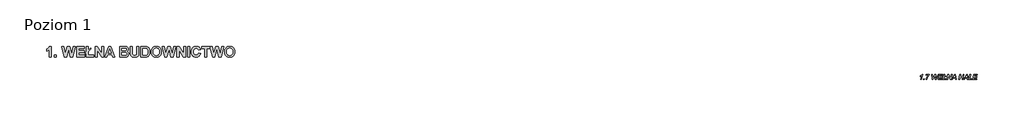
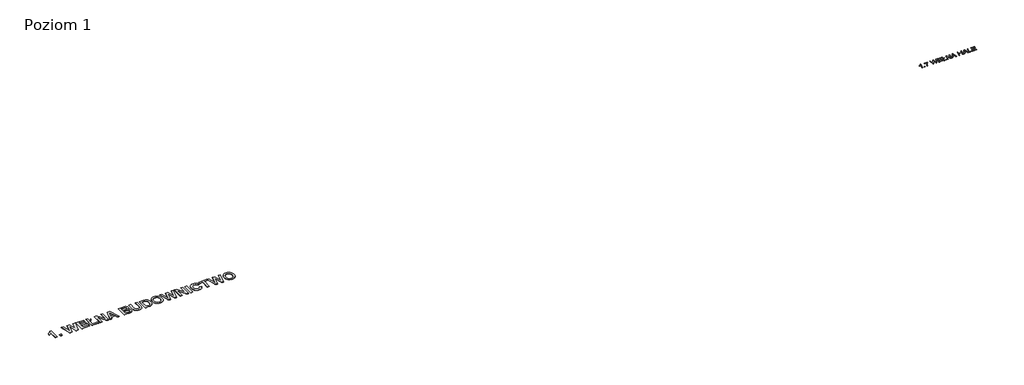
# One storey, incomplete: 2 proxies.
"""IFC4 building model written with IfcOpenShell, lengths in millimetres."""

import ifcopenshell
import ifcopenshell.guid

model = None  # the IFC model being written
_history = None  # IfcOwnerHistory: only IFC2X3 demands one
_inside = {}  # id of a spatial element -> (the spatial element, [elements in it])
_under = {}  # id of a project, library or spatial element -> (it, [spatial elements below it])
_declared = {}  # id of a project -> (the project, [libraries it declares])
_typed = {}  # id of a type object -> (the type object, [elements of that type])
_made_of = {}  # id of a material, layer set ... -> (it, [elements and type objects made of it])


def new_model(schema):
    """Start an empty IFC model of exactly this schema.

    Asked for "IFC4X3", IfcOpenShell would pick the latest addendum, in which some entities
    have other attributes; the version numbers below select the first issue.
    IFC2X3 requires an IfcOwnerHistory on every rooted entity: one is made here for all.
    """
    global model, _history
    if schema == "IFC4X3":
        model = ifcopenshell.file(schema_version=(4, 3, 0, 0))
    else:
        model = ifcopenshell.file(schema=schema)
    _inside.clear()
    _under.clear()
    _declared.clear()
    _typed.clear()
    _made_of.clear()
    _history = None
    if model.schema == "IFC2X3":
        org = make("IfcOrganization", Name="unknown")
        user = make(
            "IfcPersonAndOrganization",
            ThePerson=make("IfcPerson", FamilyName="unknown"),
            TheOrganization=org,
        )
        app = make(
            "IfcApplication",
            ApplicationDeveloper=org,
            Version="unknown",
            ApplicationFullName="unknown",
            ApplicationIdentifier="unknown",
        )
        _history = make(
            "IfcOwnerHistory",
            OwningUser=user,
            OwningApplication=app,
            ChangeAction="ADDED",
            CreationDate=0,
        )
    return model


def make(cls, **values):
    """One entity of the class cls with the attributes given. An attribute that is None is left unset."""
    return model.create_entity(
        cls, **{name: value for name, value in values.items() if value is not None}
    )


def rooted(cls, **values):
    """An entity with a GlobalId (a new one), such as an element, a storey or a relation."""
    return make(cls, GlobalId=ifcopenshell.guid.new(), OwnerHistory=_history, **values)


def si_unit(unit_type, name, prefix=None):
    """IfcSIUnit, for example si_unit("LENGTHUNIT", "METRE", prefix="MILLI")."""
    return make("IfcSIUnit", UnitType=unit_type, Prefix=prefix, Name=name)


def assignment(units):
    """IfcUnitAssignment: the units of a project."""
    return None if units is None else make("IfcUnitAssignment", Units=units)


def point(xyz):
    """IfcCartesianPoint."""
    return None if xyz is None else make("IfcCartesianPoint", Coordinates=xyz)


def direction(xyz):
    """IfcDirection."""
    return None if xyz is None else make("IfcDirection", DirectionRatios=xyz)


def frame(location, z_axis=None, x_axis=None):
    """IfcAxis2Placement3D, a coordinate frame: its origin and axes. An axis left out is left unset."""
    return make(
        "IfcAxis2Placement3D",
        Location=point(location),
        Axis=direction(z_axis),
        RefDirection=direction(x_axis),
    )


def origin():
    """The frame at (0, 0, 0) with its axes left unset."""
    return frame((0.0, 0.0, 0.0))


def origin_with_axes():
    """The frame at (0, 0, 0) with the z axis (0, 0, 1) and the x axis (1, 0, 0) written out."""
    return frame((0.0, 0.0, 0.0), z_axis=(0.0, 0.0, 1.0), x_axis=(1.0, 0.0, 0.0))


def place(relative_to, where):
    """IfcLocalPlacement: puts the frame where relative to a parent placement (None: the world)."""
    return make(
        "IfcLocalPlacement", PlacementRelTo=relative_to, RelativePlacement=where
    )


def context(
    kind, dimensions, precision=None, world=None, true_north=None, identifier=None
):
    """IfcGeometricRepresentationContext, for example the 3D "Model" context."""
    return make(
        "IfcGeometricRepresentationContext",
        ContextIdentifier=identifier,
        ContextType=kind,
        CoordinateSpaceDimension=dimensions,
        Precision=precision,
        WorldCoordinateSystem=world,
        TrueNorth=true_north,
    )


def project(units=None, contexts=None):
    """IfcProject with its units and contexts."""
    return rooted(
        "IfcProject",
        Name="project",
        RepresentationContexts=contexts,
        UnitsInContext=assignment(units),
    )


def spatial(cls, under=None, at=None, **own):
    """A site, building, storey or space (cls), placed at a placement, below another one or the project."""
    s = rooted(cls, ObjectPlacement=at, **own)
    if under is not None:
        _under.setdefault(under.id(), (under, []))[1].append(s)
    return s


def polyline(points):
    """IfcPolyline through the points."""
    return make("IfcPolyline", Points=[point(p) for p in points])


def outline(outer, holes=None, kind="AREA"):
    """IfcArbitraryClosedProfileDef: a profile drawn as a closed curve; with holes, ...WithVoids."""
    if holes is None:
        return make("IfcArbitraryClosedProfileDef", ProfileType=kind, OuterCurve=outer)
    return make(
        "IfcArbitraryProfileDefWithVoids",
        ProfileType=kind,
        OuterCurve=outer,
        InnerCurves=holes,
    )


def extrude(swept, where, along, depth):
    """IfcExtrudedAreaSolid: the profile swept, set in the frame where, extruded along a direction by depth."""
    return make(
        "IfcExtrudedAreaSolid",
        SweptArea=swept,
        Position=where,
        ExtrudedDirection=direction(along),
        Depth=depth,
    )


def shape(context_of_items, identifier, shape_type, items):
    """IfcShapeRepresentation: the items that make up one representation, for example the "Body"."""
    return make(
        "IfcShapeRepresentation",
        ContextOfItems=context_of_items,
        RepresentationIdentifier=identifier,
        RepresentationType=shape_type,
        Items=items,
    )


def made_of(thing, what):
    """Note that an element or type object is made of a material, layer set ...; save() writes the relation."""
    if what is not None:
        _made_of.setdefault(what.id(), (what, []))[1].append(thing)
    return thing


def element(
    cls,
    number,
    at=None,
    inside=None,
    cuts=None,
    type_object=None,
    material=None,
    context=None,
    identifier="Body",
    shape_type=None,
    held_by="IfcProductDefinitionShape",
    body=None,
    shapes=None,
    **own,
):
    """One element of the class cls, such as IfcWall. Its Tag is "e" and its number.

    at: its placement. inside: the storey or other place that contains it. cuts: it is an
    opening in that element (IfcRelVoidsElement). A single representation is given by context,
    identifier, shape_type and body (its items); several are given by shapes. held_by: the class
    of the entity that holds the representations. save() writes the other relations.
    """
    e = rooted(cls, Tag="e%d" % number, ObjectPlacement=at, **own)
    if body is not None:
        shapes = [shape(context, identifier, shape_type, body)]
    if shapes is not None:
        e.Representation = make(held_by, Representations=shapes)
    if inside is not None:
        _inside.setdefault(inside.id(), (inside, []))[1].append(e)
    if cuts is not None:
        rooted(
            "IfcRelVoidsElement", RelatingBuildingElement=cuts, RelatedOpeningElement=e
        )
    if type_object is not None:
        _typed.setdefault(type_object.id(), (type_object, []))[1].append(e)
    return made_of(e, material)


def aggregate(whole, parts):
    """IfcRelAggregates: a whole, such as a stair, and the parts it consists of."""
    return rooted("IfcRelAggregates", RelatingObject=whole, RelatedObjects=parts)


def save(model, path):
    """Write the relations noted so far, then the file.

    IfcRelAggregates (storeys below a building ...), IfcRelContainedInSpatialStructure (elements
    in a storey), IfcRelDefinesByType, IfcRelAssociatesMaterial and IfcRelDeclares: one each for
    every whole, place, type object, material and project.
    """
    for whole, parts in _under.values():
        aggregate(whole, parts)
    for where, things in _inside.values():
        rooted(
            "IfcRelContainedInSpatialStructure",
            RelatedElements=things,
            RelatingStructure=where,
        )
    for kind, things in _typed.values():
        rooted("IfcRelDefinesByType", RelatedObjects=things, RelatingType=kind)
    for what, things in _made_of.values():
        rooted("IfcRelAssociatesMaterial", RelatedObjects=things, RelatingMaterial=what)
    for by, libraries in _declared.values():
        rooted("IfcRelDeclares", RelatingContext=by, RelatedDefinitions=libraries)
    model.write(path)


model = new_model("IFC4")

# Units and contexts
model_context = context("Model", 3, world=origin())
ifc_project = project(units=[si_unit("LENGTHUNIT", "METRE", prefix="MILLI")], contexts=[model_context])

# Site, building, storey
site = spatial("IfcSite", under=ifc_project)
building = spatial("IfcBuilding", under=site)
storey = spatial("IfcBuildingStorey", under=building, Name="Poziom 1", Elevation=0.0)

# Proxies
placement = place(None, origin())
element("IfcBuildingElementProxy", 1, Name="400 mm Arial", ObjectType="400 mm Arial", at=placement, inside=storey, context=model_context, shape_type="SweptSolid", body=[
    extrude(outline(polyline([(50188.1068831, 15251.1796723), (50249.3190043, 15546.3368692), (50227.350787, 15531.4283702), (50201.3296577, 15518.0740851), (50137.1286634, 15496.0281571), (50146.1191937, 15538.8766419), (50181.8302496, 15555.5067319), (50217.0391748, 15576.5125321), (50269.9780952, 15617.0177404), (50290.7328301, 15642.937248), (50319.330368, 15642.937248), (50237.9373755, 15251.1796723), (50188.1068831, 15251.1796723)])), origin_with_axes(), (0.0, 0.0, 1.0), 5.0),
    extrude(outline(polyline([(50384.7508225, 15251.1796723), (50396.2280952, 15300.1493692), (50445.1977922, 15300.1493692), (50434.6769589, 15251.1796723), (50384.7508225, 15251.1796723)])), origin_with_axes(), (0.0, 0.0, 1.0), 5.0),
    extrude(outline(polyline([(50585.985671, 15251.1796723), (50596.0282846, 15294.0520681), (50613.3398377, 15344.8150889), (50642.1884409, 15410.5942082), (50678.8081142, 15475.9429298), (50721.5968216, 15536.4855435), (50768.952527, 15587.8463389), (50572.8824513, 15587.8463389), (50582.2555573, 15636.8160359), (50833.703474, 15636.8160359), (50824.7129437, 15587.8463389), (50793.4074868, 15558.3640946), (50764.1464191, 15524.9126268), (50736.9297406, 15487.4919355), (50711.7574513, 15446.1020207), (50685.9036989, 15396.3313058), (50664.4854342, 15347.2540094), (50647.5026573, 15298.8701315), (50634.955368, 15251.1796723), (50585.985671, 15251.1796723)])), origin_with_axes(), (0.0, 0.0, 1.0), 5.0),
    extrude(outline(polyline([(51045.0765801, 15251.1796723), (51020.5917316, 15642.937248), (51069.5614286, 15642.937248), (51080.7517695, 15447.8236116), (51085.0557467, 15372.9344071), (51086.3947619, 15348.9277783), (51090.985671, 15318.5130056), (51136.4165422, 15418.0783465), (51251.1892695, 15642.937248), (51308.2887013, 15642.937248), (51325.6002543, 15413.2961495), (51335.8341558, 15318.5130056), (51351.328474, 15356.1010738), (51381.9345346, 15417.1219071), (51495.5595346, 15642.937248), (51550.0765801, 15642.937248), (51346.1637013, 15251.1796723), (51289.9250649, 15251.1796723), (51271.3701407, 15487.5158465), (51262.3796104, 15563.3614904), (51236.4601028, 15506.3577026), (51106.0017695, 15251.1796723), (51045.0765801, 15251.1796723)])), origin_with_axes(), (0.0, 0.0, 1.0), 5.0),
    extrude(outline(polyline([(51504.1674892, 15251.1796723), (51583.7432467, 15642.937248), (51859.1977922, 15642.937248), (51852.9809361, 15600.0887632), (51624.7744967, 15600.0887632), (51599.9070725, 15477.6645207), (51822.4705195, 15477.6645207), (51810.2280952, 15434.8160359), (51591.203474, 15434.8160359), (51562.6059361, 15294.0281571), (51808.1239286, 15294.0281571), (51798.9421104, 15251.1796723), (51504.1674892, 15251.1796723)])), origin_with_axes(), (0.0, 0.0, 1.0), 5.0),
    extrude(outline(polyline([(51898.3161634, 15413.7743692), (51846.955368, 15385.8463389), (51859.1977922, 15428.6948238), (51906.6371861, 15454.5186874), (51944.8947619, 15642.937248), (51994.6296104, 15642.937248), (51962.4932467, 15484.7421723), (52073.4402164, 15544.9978541), (52061.1977922, 15502.1493692), (51954.267868, 15444.093498), (51923.7574513, 15294.0281571), (52128.5311255, 15294.0281571), (52116.2887013, 15251.1796723), (51865.3190043, 15251.1796723), (51898.3161634, 15413.7743692)])), origin_with_axes(), (0.0, 0.0, 1.0), 5.0),
    extrude(outline(polyline([(52165.2583983, 15251.1796723), (52244.8341558, 15642.937248), (52312.1674892, 15642.937248), (52371.4667316, 15491.3416041), (52414.5065043, 15374.5603541), (52435.6438149, 15300.1493692), (52457.2593452, 15411.2876268), (52502.3076407, 15642.937248), (52551.9468452, 15642.937248), (52475.8142695, 15251.1796723), (52403.5074513, 15251.1796723), (52322.4970346, 15476.2298616), (52282.9960877, 15585.7421723), (52263.3890801, 15489.0461495), (52214.9932467, 15251.1796723), (52165.2583983, 15251.1796723)])), origin_with_axes(), (0.0, 0.0, 1.0), 5.0),
    extrude(outline(polyline([(52524.2101028, 15251.1796723), (52743.4260119, 15642.937248), (52805.4032846, 15642.937248), (52867.0936255, 15251.1796723), (52817.6457089, 15251.1796723), (52801.9601028, 15361.3614904), (52638.8871861, 15361.3614904), (52579.109724, 15251.1796723), (52524.2101028, 15251.1796723)]), holes=[polyline([(52664.2328301, 15404.2099753), (52795.9345346, 15404.2099753), (52782.1618073, 15502.1493692), (52768.1977922, 15600.0887632), (52725.0623755, 15520.5130056), (52664.2328301, 15404.2099753)])]), origin_with_axes(), (0.0, 0.0, 1.0), 5.0),
    extrude(outline(polyline([(53071.1977922, 15251.1796723), (53150.7735498, 15642.937248), (53200.5083983, 15642.937248), (53166.9373755, 15477.6645207), (53368.3635119, 15477.6645207), (53402.1258225, 15642.937248), (53451.860671, 15642.937248), (53371.9023377, 15251.1796723), (53322.1674892, 15251.1796723), (53359.6599134, 15434.8160359), (53158.233777, 15434.8160359), (53120.9326407, 15251.1796723), (53071.1977922, 15251.1796723)])), origin_with_axes(), (0.0, 0.0, 1.0), 5.0),
    extrude(outline(polyline([(53430.1494967, 15251.1796723), (53649.3654058, 15642.937248), (53711.3426786, 15642.937248), (53773.0330195, 15251.1796723), (53723.5851028, 15251.1796723), (53707.8994967, 15361.3614904), (53544.8265801, 15361.3614904), (53485.049118, 15251.1796723), (53430.1494967, 15251.1796723)]), holes=[polyline([(53570.172224, 15404.2099753), (53701.8739286, 15404.2099753), (53688.1012013, 15502.1493692), (53674.1371861, 15600.0887632), (53631.0017695, 15520.5130056), (53570.172224, 15404.2099753)])]), origin_with_axes(), (0.0, 0.0, 1.0), 5.0),
    extrude(outline(polyline([(53824.1068831, 15251.1796723), (53903.6826407, 15642.937248), (53953.4174892, 15642.937248), (53882.5453301, 15294.0281571), (54093.4402164, 15294.0281571), (54081.1977922, 15251.1796723), (53824.1068831, 15251.1796723)])), origin_with_axes(), (0.0, 0.0, 1.0), 5.0),
    extrude(outline(polyline([(54124.046277, 15251.1796723), (54203.6220346, 15642.937248), (54479.0765801, 15642.937248), (54472.859724, 15600.0887632), (54244.6532846, 15600.0887632), (54219.7858604, 15477.6645207), (54442.3493073, 15477.6645207), (54430.1068831, 15434.8160359), (54211.0822619, 15434.8160359), (54182.484724, 15294.0281571), (54428.0027164, 15294.0281571), (54418.8208983, 15251.1796723), (54124.046277, 15251.1796723)])), origin_with_axes(), (0.0, 0.0, 1.0), 5.0),
])
element("IfcBuildingElementProxy", 2, Name="800", ObjectType="800", at=placement, inside=storey, context=model_context, shape_type="SweptSolid", body=[
    extrude(outline(polyline([(-15688.5553841, 16963.7896585), (-15841.5553841, 16963.7896585), (-15841.5553841, 17537.938096), (-15883.9142708, 17497.5215921), (-15929.9088997, 17462.7330179), (-15979.5392708, 17433.5723734), (-16032.8053841, 17410.0396585), (-16032.8053841, 17563.0396585), (-16002.7856087, 17575.1235208), (-15971.4958138, 17591.6524515), (-15905.1061654, 17638.0455179), (-15873.3432259, 17666.8388529), (-15846.984095, 17697.9356546), (-15826.0287728, 17731.3359232), (-15810.4772591, 17767.0396585), (-15688.5553841, 17767.0396585), (-15688.5553841, 16963.7896585)])), origin_with_axes(), (0.0, 0.0, 1.0), 5.0),
    extrude(outline(polyline([(-15433.5553841, 16963.7896585), (-15433.5553841, 17116.7896585), (-15280.5553841, 17116.7896585), (-15280.5553841, 16963.7896585), (-15433.5553841, 16963.7896585)])), origin_with_axes(), (0.0, 0.0, 1.0), 5.0),
    extrude(outline(polyline([(-14695.8483529, 16963.7896585), (-14898.0553841, 17767.0396585), (-14741.0710091, 17767.0396585), (-14611.1803841, 17215.203721), (-14471.5280404, 17767.0396585), (-14265.7350716, 17767.0396585), (-14126.6803841, 17206.0396585), (-13996.7897591, 17767.0396585), (-13839.8053841, 17767.0396585), (-14039.0241341, 16963.7896585), (-14220.1139779, 16963.7896585), (-14368.9303841, 17564.234971), (-14520.7350716, 16963.7896585), (-14695.8483529, 16963.7896585)])), origin_with_axes(), (0.0, 0.0, 1.0), 5.0),
    extrude(outline(polyline([(-13763.3053841, 16963.7896585), (-13763.3053841, 17767.0396585), (-13164.0553841, 17767.0396585), (-13164.0553841, 17626.7896585), (-13610.3053841, 17626.7896585), (-13610.3053841, 17448.2896585), (-13189.5553841, 17448.2896585), (-13189.5553841, 17308.0396585), (-13610.3053841, 17308.0396585), (-13610.3053841, 17104.0396585), (-13151.3053841, 17104.0396585), (-13151.3053841, 16963.7896585), (-13763.3053841, 16963.7896585)])), origin_with_axes(), (0.0, 0.0, 1.0), 5.0),
    extrude(outline(polyline([(-13023.8053841, 17367.406846), (-13023.8053841, 17767.0396585), (-12870.8053841, 17767.0396585), (-12870.8053841, 17501.8795023), (-12692.3053841, 17658.6646585), (-12692.3053841, 17561.047471), (-12870.8053841, 17404.2623148), (-12870.8053841, 17104.0396585), (-12462.8053841, 17104.0396585), (-12462.8053841, 16963.7896585), (-13023.8053841, 16963.7896585), (-13023.8053841, 17269.7896585), (-13113.0553841, 17191.297471), (-13113.0553841, 17288.9146585), (-13023.8053841, 17367.406846)])), origin_with_axes(), (0.0, 0.0, 1.0), 5.0),
    extrude(outline(polyline([(-12348.0553841, 16963.7896585), (-12348.0553841, 17767.0396585), (-12187.6842904, 17767.0396585), (-11850.8053841, 17226.359971), (-11850.8053841, 17767.0396585), (-11697.8053841, 17767.0396585), (-11697.8053841, 16963.7896585), (-11863.1569466, 16963.7896585), (-12195.0553841, 17496.500596), (-12195.0553841, 16963.7896585), (-12348.0553841, 16963.7896585)])), origin_with_axes(), (0.0, 0.0, 1.0), 5.0),
    extrude(outline(polyline([(-10869.0553841, 16963.7896585), (-11029.8249154, 16963.7896585), (-11092.7780404, 17142.2896585), (-11396.1881966, 17142.2896585), (-11458.3444466, 16963.7896585), (-11621.3053841, 16963.7896585), (-11328.0553841, 17767.0396585), (-11165.0944466, 17767.0396585), (-10869.0553841, 16963.7896585)]), holes=[polyline([(-11141.7858529, 17282.5396585), (-11245.1803841, 17575.7896585), (-11347.1803841, 17282.5396585), (-11141.7858529, 17282.5396585)])]), origin_with_axes(), (0.0, 0.0, 1.0), 5.0),
    extrude(outline(polyline([(-10486.5553841, 17767.0396585), (-10156.8483529, 17767.0396585), (-10071.4582161, 17765.047471), (-10010.9206185, 17759.0709085), (-9965.3493294, 17746.7442484), (-9924.8581185, 17725.7017679), (-9890.0695443, 17696.1177835), (-9861.6061654, 17658.1666117), (-9850.5370736, 17636.4579935), (-9842.6305794, 17613.4669046), (-9837.8866829, 17589.1933451), (-9836.3053841, 17563.6373148), (-9838.1917366, 17535.9210062), (-9843.8507943, 17509.3502054), (-9853.282557, 17483.9249124), (-9866.4870247, 17459.6451273), (-9882.9287972, 17437.4197855), (-9902.072474, 17418.1578226), (-9923.918055, 17401.8592386), (-9948.4655404, 17388.5240335), (-9917.213099, 17375.9981546), (-9889.7956185, 17359.7369242), (-9866.213099, 17339.7403421), (-9846.4655404, 17316.0084085), (-9830.864222, 17289.2757425), (-9819.7204232, 17260.2769632), (-9813.0341439, 17229.0120707), (-9810.8053841, 17195.4810648), (-9812.4053597, 17168.3810892), (-9817.2052865, 17141.6670999), (-9836.4049935, 17089.3970804), (-9850.3752083, 17064.9429789), (-9866.6862435, 17043.078721), (-9885.338099, 17023.804307), (-9906.3307747, 17007.1197367), (-9929.782557, 16993.2055521), (-9955.8117318, 16982.2422953), (-9984.4182991, 16974.2299662), (-10015.6022591, 16969.1685648), (-10085.0299935, 16965.632432), (-10212.0319466, 16963.7896585), (-10486.5553841, 16963.7896585), (-10486.5553841, 17767.0396585)]), holes=[polyline([(-10333.5553841, 17626.7896585), (-10333.5553841, 17448.2896585), (-10216.8131966, 17448.2896585), (-10087.3210091, 17450.8795023), (-10046.5558724, 17460.1929789), (-10029.8152718, 17468.2488871), (-10015.5026497, 17478.5709085), (-10004.041346, 17490.9349222), (-9995.8547005, 17505.116807), (-9990.9427132, 17521.1165628), (-9989.3053841, 17538.9341898), (-9994.9582161, 17571.2823343), (-10002.0242562, 17584.9723978), (-10011.9167122, 17597.0064554), (-10024.5857796, 17607.1105814), (-10039.9816536, 17615.0108499), (-10078.9538216, 17624.1998148), (-10231.1569466, 17626.7896585), (-10333.5553841, 17626.7896585)]), polyline([(-10333.5553841, 17308.0396585), (-10333.5553841, 17104.0396585), (-10171.7897591, 17104.0396585), (-10094.4928841, 17105.234971), (-10051.8600716, 17108.8209085), (-10016.4489388, 17119.504014), (-9988.3092904, 17139.2017679), (-9977.5888314, 17152.3315287), (-9969.9313607, 17167.5157328), (-9965.3368782, 17184.7543802), (-9963.8053841, 17204.047471), (-9968.5368294, 17235.7232523), (-9982.7311654, 17262.219346), (-10005.8405404, 17282.8882914), (-10037.3171029, 17297.0826273), (-10093.8952279, 17305.3004007), (-10192.3092904, 17308.0396585), (-10333.5553841, 17308.0396585)])]), origin_with_axes(), (0.0, 0.0, 1.0), 5.0),
    extrude(outline(polyline([(-9683.3053841, 17767.0396585), (-9530.3053841, 17767.0396585), (-9530.3053841, 17333.7388773), (-9528.6618294, 17248.672471), (-9523.7311654, 17199.8638773), (-9516.098597, 17176.5615091), (-9504.5563607, 17155.6622171), (-9489.1044564, 17137.1660013), (-9469.7428841, 17121.0728617), (-9446.4716439, 17108.0427103), (-9419.2907357, 17098.7354593), (-9388.2001595, 17093.1511087), (-9353.1999154, 17091.2896585), (-9317.8697152, 17093.0452738), (-9287.1838021, 17098.3121195), (-9261.1421761, 17107.0901957), (-9239.7448372, 17119.3795023), (-9222.5684456, 17134.2275248), (-9209.1896615, 17150.6817484), (-9199.6084847, 17168.7421732), (-9193.8249154, 17188.4087992), (-9187.9977669, 17242.8702249), (-9186.0553841, 17324.375596), (-9186.0553841, 17767.0396585), (-9033.0553841, 17767.0396585), (-9033.0553841, 17345.6920023), (-9036.3922982, 17222.3257914), (-9046.4030404, 17141.4927835), (-9054.4838509, 17112.8613138), (-9065.3786263, 17086.5333109), (-9079.0873665, 17062.5087748), (-9095.6100716, 17040.7877054), (-9115.0525765, 17021.2704935), (-9137.5207161, 17003.8575296), (-9163.0144906, 16988.5488138), (-9191.5338997, 16975.344346), (-9223.8633675, 16964.7110453), (-9260.7873177, 16957.1158304), (-9302.3057503, 16952.5587015), (-9348.4186654, 16951.0396585), (-9403.2660775, 16952.6956644), (-9451.0661263, 16957.663682), (-9491.8188118, 16965.9437113), (-9525.5241341, 16977.5357523), (-9554.1244759, 16991.7798929), (-9579.56222, 17008.016221), (-9601.8373665, 17026.2447367), (-9620.9499154, 17046.4654398), (-9650.0358529, 17089.944932), (-9667.1686654, 17135.516221), (-9679.2712044, 17220.8814554), (-9683.3053841, 17339.1177835), (-9683.3053841, 17767.0396585)])), origin_with_axes(), (0.0, 0.0, 1.0), 5.0),
    extrude(outline(polyline([(-8880.0553841, 17767.0396585), (-8582.6217904, 17767.0396585), (-8493.9694466, 17763.2046976), (-8429.2233529, 17751.6998148), (-8395.0324349, 17739.2299662), (-8363.381556, 17722.738389), (-8334.2707161, 17702.2250833), (-8307.6999154, 17677.6900492), (-8283.9119515, 17649.6500101), (-8263.1496224, 17618.6216898), (-8245.4129281, 17584.6050882), (-8230.7018685, 17547.6002054), (-8219.1534066, 17506.8537455), (-8210.9045052, 17461.6124124), (-8205.9551644, 17411.8762064), (-8204.3053841, 17357.6451273), (-8205.8493294, 17309.8326273), (-8210.4811654, 17265.406846), (-8218.2008919, 17224.3677835), (-8229.0085091, 17186.7154398), (-8245.7677865, 17144.9791117), (-8265.7643685, 17107.4263773), (-8288.9982552, 17074.0572367), (-8315.4694466, 17044.8716898), (-8338.4543099, 17025.472764), (-8365.1745247, 17008.3150492), (-8395.6300911, 16993.3985453), (-8429.8210091, 16980.7232523), (-8492.7243294, 16968.023057), (-8573.8561654, 16963.7896585), (-8880.0553841, 16963.7896585), (-8880.0553841, 17767.0396585)]), holes=[polyline([(-8727.0553841, 17626.7896585), (-8727.0553841, 17104.0396585), (-8596.7663216, 17104.0396585), (-8533.8131966, 17105.9322367), (-8491.1803841, 17111.609971), (-8452.3576302, 17124.5840921), (-8420.756556, 17144.3814554), (-8407.4026741, 17157.8473978), (-8395.331263, 17175.0362406), (-8375.0358529, 17220.5826273), (-8361.7380013, 17283.2369242), (-8357.3053841, 17365.2154398), (-8361.7380013, 17446.0484476), (-8367.2787728, 17478.5086527), (-8375.0358529, 17505.6646585), (-8396.2775521, 17549.2935648), (-8424.5417122, 17582.1646585), (-8460.6252083, 17605.1744242), (-8505.3249154, 17619.219346), (-8559.4626107, 17624.8970804), (-8648.5631966, 17626.7896585), (-8727.0553841, 17626.7896585)])]), origin_with_axes(), (0.0, 0.0, 1.0), 5.0),
    extrude(outline(polyline([(-8102.3053841, 17360.4341898), (-8100.051722, 17419.2286234), (-8093.2907357, 17473.0923929), (-8082.0224251, 17522.0254984), (-8066.2467904, 17566.0279398), (-8034.4464974, 17624.0753031), (-7992.834681, 17675.8970804), (-7944.1007943, 17718.3057718), (-7918.0716195, 17734.7848978), (-7890.9342904, 17748.1138773), (-7852.659388, 17761.9720316), (-7811.5456185, 17771.8707132), (-7767.5929818, 17777.8099222), (-7720.8014779, 17779.7896585), (-7678.3118538, 17778.0729532), (-7638.0011849, 17772.9228373), (-7599.869471, 17764.3393106), (-7563.9167122, 17752.3223734), (-7530.1429085, 17736.8720255), (-7498.5480599, 17717.9882669), (-7469.1321663, 17695.6710978), (-7441.8952279, 17669.9205179), (-7417.3819832, 17641.1131754), (-7396.1371712, 17609.6257181), (-7378.1607918, 17575.4581461), (-7363.452845, 17538.6104593), (-7352.0133309, 17499.0826578), (-7343.8422493, 17456.8747416), (-7338.9396004, 17411.9867105), (-7337.3053841, 17364.4185648), (-7338.9271492, 17317.1819315), (-7343.7924447, 17272.5911722), (-7351.9012703, 17230.646287), (-7363.2536263, 17191.3472757), (-7377.8495125, 17154.6941385), (-7395.688929, 17120.6868753), (-7416.7718758, 17089.3254862), (-7441.0983529, 17060.609971), (-7468.1422982, 17034.9294291), (-7497.3776497, 17012.6729593), (-7528.8044075, 16993.8405619), (-7562.4225716, 16978.4322367), (-7598.2321419, 16966.4479837), (-7636.2331185, 16957.8878031), (-7676.4255013, 16952.7516947), (-7718.8092904, 16951.0396585), (-7761.6599984, 16952.7439127), (-7802.2570443, 16957.8566751), (-7840.6004281, 16966.3779459), (-7876.6901497, 16978.3077249), (-7910.5262093, 16993.6460123), (-7942.1086068, 17012.392808), (-7971.4373421, 17034.5481119), (-7998.5124154, 17060.1119242), (-8022.8388924, 17088.6640177), (-8043.9218392, 17119.7841654), (-8061.7612557, 17153.4723673), (-8076.3571419, 17189.7286234), (-8087.7094979, 17228.5529337), (-8095.8183236, 17269.9452982), (-8100.683619, 17313.9057169), (-8102.3053841, 17360.4341898)]), holes=[polyline([(-7949.3053841, 17366.0123148), (-7945.2400765, 17302.4739847), (-7933.0441536, 17247.1285257), (-7912.7176156, 17199.9759378), (-7884.2604622, 17161.016221), (-7849.5403695, 17130.5108499), (-7810.425013, 17108.7212992), (-7766.9143929, 17095.6475687), (-7719.0085091, 17091.2896585), (-7671.15243, 17095.6164408), (-7627.791224, 17108.5967874), (-7588.9248909, 17130.2306986), (-7554.553431, 17160.5181742), (-7526.4449105, 17199.4592142), (-7506.3673958, 17247.0538187), (-7494.320887, 17303.3019876), (-7490.3053841, 17368.203721), (-7494.2150521, 17432.2027445), (-7505.944056, 17487.5357523), (-7525.4923958, 17534.2027445), (-7552.8600716, 17572.203721), (-7586.7023568, 17601.6631937), (-7625.6745247, 17622.7056742), (-7669.7765755, 17635.3311624), (-7719.0085091, 17639.5396585), (-7768.2902474, 17635.2813578), (-7812.5417122, 17622.5064554), (-7851.7629036, 17601.2149515), (-7885.9538216, 17571.406846), (-7913.6701302, 17533.0198832), (-7933.4674935, 17485.991807), (-7945.3459115, 17430.3226175), (-7949.3053841, 17366.0123148)])]), origin_with_axes(), (0.0, 0.0, 1.0), 5.0),
    extrude(outline(polyline([(-7084.0983529, 16963.7896585), (-7286.3053841, 17767.0396585), (-7129.3210091, 17767.0396585), (-6999.4303841, 17215.203721), (-6859.7780404, 17767.0396585), (-6653.9850716, 17767.0396585), (-6514.9303841, 17206.0396585), (-6385.0397591, 17767.0396585), (-6228.0553841, 17767.0396585), (-6427.2741341, 16963.7896585), (-6608.3639779, 16963.7896585), (-6757.1803841, 17564.234971), (-6908.9850716, 16963.7896585), (-7084.0983529, 16963.7896585)])), origin_with_axes(), (0.0, 0.0, 1.0), 5.0),
    extrude(outline(polyline([(-6151.5553841, 16963.7896585), (-6151.5553841, 17767.0396585), (-5991.1842904, 17767.0396585), (-5654.3053841, 17226.359971), (-5654.3053841, 17767.0396585), (-5501.3053841, 17767.0396585), (-5501.3053841, 16963.7896585), (-5666.6569466, 16963.7896585), (-5998.5553841, 17496.500596), (-5998.5553841, 16963.7896585), (-6151.5553841, 16963.7896585)])), origin_with_axes(), (0.0, 0.0, 1.0), 5.0),
    extrude(outline(polyline([(-5348.3053841, 16963.7896585), (-5348.3053841, 17767.0396585), (-5195.3053841, 17767.0396585), (-5195.3053841, 16963.7896585), (-5348.3053841, 16963.7896585)])), origin_with_axes(), (0.0, 0.0, 1.0), 5.0),
    extrude(outline(polyline([(-4519.5553841, 17269.7896585), (-4366.5553841, 17218.7896585), (-4387.6850228, 17158.29564), (-4414.8161263, 17106.1065531), (-4447.9486947, 17062.2223978), (-4487.0827279, 17026.6431742), (-4532.0563607, 16999.1447611), (-4582.7077279, 16979.5030374), (-4639.0368294, 16967.7180033), (-4701.0436654, 16963.7896585), (-4740.2430672, 16965.467454), (-4777.6557259, 16970.5008402), (-4813.2816414, 16978.8898172), (-4847.1208138, 16990.6343851), (-4879.173243, 17005.7345438), (-4909.438929, 17024.1902933), (-4937.9178719, 17046.0016336), (-4964.6100716, 17071.1685648), (-4988.796473, 17099.2459574), (-5009.7580208, 17129.788682), (-5027.4947152, 17162.7967386), (-5042.006556, 17198.2701273), (-5053.2935433, 17236.208848), (-5061.3556771, 17276.6129007), (-5066.1929574, 17319.4822855), (-5067.8053841, 17364.8170023), (-5066.1789498, 17412.6979837), (-5061.2996468, 17457.8272562), (-5053.1674752, 17500.2048197), (-5041.7824349, 17539.8306742), (-5027.144526, 17576.7048197), (-5009.2537484, 17610.8272562), (-4988.1101021, 17642.1979837), (-4963.7135872, 17670.8170023), (-4936.6649727, 17696.3574686), (-4907.5650277, 17718.4925394), (-4876.413752, 17737.2222147), (-4843.2111458, 17752.5464945), (-4807.9572091, 17764.4653788), (-4770.6519417, 17772.9788675), (-4731.2953438, 17778.0869608), (-4689.8874154, 17779.7896585), (-4619.2643685, 17774.17418), (-4555.6139779, 17757.3277445), (-4526.4035286, 17744.6929178), (-4498.9362435, 17729.2503519), (-4473.2121224, 17711.0000467), (-4449.2311654, 17689.9420023), (-4423.3700814, 17660.5447855), (-4400.9704232, 17625.3453226), (-4382.0321907, 17584.3436136), (-4366.5553841, 17537.5396585), (-4519.5553841, 17512.0396585), (-4529.1988167, 17540.0610208), (-4542.9884896, 17564.957139), (-4560.9244027, 17586.728013), (-4583.006556, 17605.3736429), (-4608.4629769, 17620.3212748), (-4636.5216927, 17630.9981546), (-4667.1827034, 17637.4042826), (-4700.4460091, 17639.5396585), (-4745.9114632, 17635.6611185), (-4786.8820443, 17624.0254984), (-4823.3577523, 17604.6327982), (-4855.3385872, 17577.4830179), (-4881.3553109, 17541.6547708), (-4899.9386849, 17496.2266703), (-4911.0887093, 17441.1987162), (-4914.8053841, 17376.5709085), (-4911.2007699, 17308.1641703), (-4900.3869271, 17250.3658304), (-4882.3638558, 17203.175889), (-4857.131556, 17166.594346), (-4826.1219124, 17139.2266703), (-4790.7668099, 17119.6783304), (-4751.0662484, 17107.9493265), (-4707.0202279, 17104.0396585), (-4674.2300667, 17106.5361185), (-4643.7931771, 17114.0254984), (-4615.7095589, 17126.5077982), (-4589.9792122, 17143.9830179), (-4567.1624398, 17166.8246927), (-4547.8195443, 17195.4063578), (-4531.9505257, 17229.728013), (-4519.5553841, 17269.7896585)])), origin_with_axes(), (0.0, 0.0, 1.0), 5.0),
    extrude(outline(polyline([(-4060.5553841, 16963.7896585), (-4060.5553841, 17626.7896585), (-4290.0553841, 17626.7896585), (-4290.0553841, 17767.0396585), (-3678.0553841, 17767.0396585), (-3678.0553841, 17626.7896585), (-3907.5553841, 17626.7896585), (-3907.5553841, 16963.7896585), (-4060.5553841, 16963.7896585)])), origin_with_axes(), (0.0, 0.0, 1.0), 5.0),
    extrude(outline(polyline([(-3450.3483529, 16963.7896585), (-3652.5553841, 17767.0396585), (-3495.5710091, 17767.0396585), (-3365.6803841, 17215.203721), (-3226.0280404, 17767.0396585), (-3020.2350716, 17767.0396585), (-2881.1803841, 17206.0396585), (-2751.2897591, 17767.0396585), (-2594.3053841, 17767.0396585), (-2793.5241341, 16963.7896585), (-2974.6139779, 16963.7896585), (-3123.4303841, 17564.234971), (-3275.2350716, 16963.7896585), (-3450.3483529, 16963.7896585)])), origin_with_axes(), (0.0, 0.0, 1.0), 5.0),
    extrude(outline(polyline([(-2543.3053841, 17360.4341898), (-2541.051722, 17419.2286234), (-2534.2907357, 17473.0923929), (-2523.0224251, 17522.0254984), (-2507.2467904, 17566.0279398), (-2475.4464974, 17624.0753031), (-2433.834681, 17675.8970804), (-2385.1007943, 17718.3057718), (-2359.0716195, 17734.7848978), (-2331.9342904, 17748.1138773), (-2293.659388, 17761.9720316), (-2252.5456185, 17771.8707132), (-2208.5929818, 17777.8099222), (-2161.8014779, 17779.7896585), (-2119.3118538, 17778.0729532), (-2079.0011849, 17772.9228373), (-2040.869471, 17764.3393106), (-2004.9167122, 17752.3223734), (-1971.1429085, 17736.8720255), (-1939.5480599, 17717.9882669), (-1910.1321663, 17695.6710978), (-1882.8952279, 17669.9205179), (-1858.3819832, 17641.1131754), (-1837.1371712, 17609.6257181), (-1819.1607918, 17575.4581461), (-1804.452845, 17538.6104593), (-1793.0133309, 17499.0826578), (-1784.8422493, 17456.8747416), (-1779.9396004, 17411.9867105), (-1778.3053841, 17364.4185648), (-1779.9271492, 17317.1819315), (-1784.7924447, 17272.5911722), (-1792.9012703, 17230.646287), (-1804.2536263, 17191.3472757), (-1818.8495125, 17154.6941385), (-1836.688929, 17120.6868753), (-1857.7718758, 17089.3254862), (-1882.0983529, 17060.609971), (-1909.1422982, 17034.9294291), (-1938.3776497, 17012.6729593), (-1969.8044075, 16993.8405619), (-2003.4225716, 16978.4322367), (-2039.2321419, 16966.4479837), (-2077.2331185, 16957.8878031), (-2117.4255013, 16952.7516947), (-2159.8092904, 16951.0396585), (-2202.6599984, 16952.7439127), (-2243.2570443, 16957.8566751), (-2281.6004281, 16966.3779459), (-2317.6901497, 16978.3077249), (-2351.5262093, 16993.6460123), (-2383.1086068, 17012.392808), (-2412.4373421, 17034.5481119), (-2439.5124154, 17060.1119242), (-2463.8388924, 17088.6640177), (-2484.9218392, 17119.7841654), (-2502.7612557, 17153.4723673), (-2517.3571419, 17189.7286234), (-2528.7094979, 17228.5529337), (-2536.8183236, 17269.9452982), (-2541.683619, 17313.9057169), (-2543.3053841, 17360.4341898)]), holes=[polyline([(-2390.3053841, 17366.0123148), (-2386.2400765, 17302.4739847), (-2374.0441536, 17247.1285257), (-2353.7176156, 17199.9759378), (-2325.2604622, 17161.016221), (-2290.5403695, 17130.5108499), (-2251.425013, 17108.7212992), (-2207.9143929, 17095.6475687), (-2160.0085091, 17091.2896585), (-2112.15243, 17095.6164408), (-2068.791224, 17108.5967874), (-2029.9248909, 17130.2306986), (-1995.553431, 17160.5181742), (-1967.4449105, 17199.4592142), (-1947.3673958, 17247.0538187), (-1935.320887, 17303.3019876), (-1931.3053841, 17368.203721), (-1935.2150521, 17432.2027445), (-1946.944056, 17487.5357523), (-1966.4923958, 17534.2027445), (-1993.8600716, 17572.203721), (-2027.7023568, 17601.6631937), (-2066.6745247, 17622.7056742), (-2110.7765755, 17635.3311624), (-2160.0085091, 17639.5396585), (-2209.2902474, 17635.2813578), (-2253.5417122, 17622.5064554), (-2292.7629036, 17601.2149515), (-2326.9538216, 17571.406846), (-2354.6701302, 17533.0198832), (-2374.4674935, 17485.991807), (-2386.3459115, 17430.3226175), (-2390.3053841, 17366.0123148)])]), origin_with_axes(), (0.0, 0.0, 1.0), 5.0),
])

save(model, "model.ifc")
